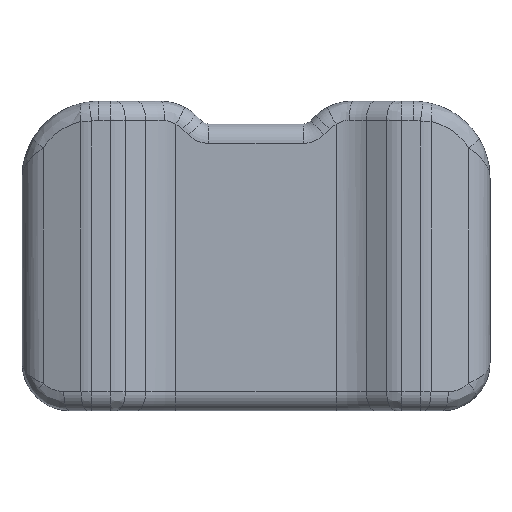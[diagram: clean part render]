
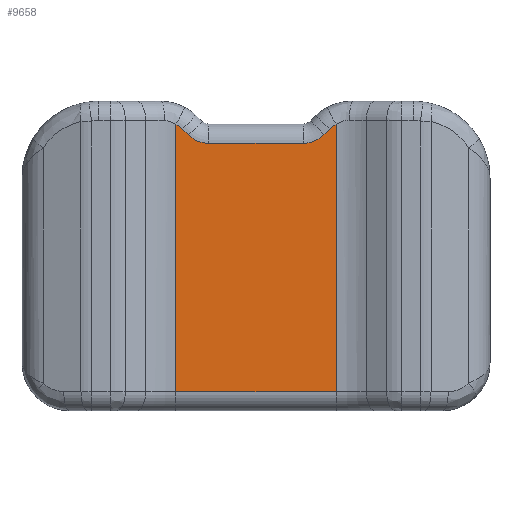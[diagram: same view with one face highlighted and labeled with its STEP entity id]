
A CAD part, front view. The second image highlights one B-rep face of the part: STEP entity #9658.
In plain terms, the highlighted planar face has unit normal (0, -1, 0).
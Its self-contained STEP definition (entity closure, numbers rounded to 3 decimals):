
#3389=CARTESIAN_POINT('',(31.068,-15.,37.834));
#3417=DIRECTION('',(1.,0.,0.));
#3418=VECTOR('',#3417,29.485);
#3419=CARTESIAN_POINT('',(-8.632,-15.,31.952));
#3420=LINE('',#3419,#3418);
#3421=CARTESIAN_POINT('',(20.853,-15.,40.877));
#3422=DIRECTION('',(0.,-1.,0.));
#3423=DIRECTION('',(0.,0.,-1.));
#3424=AXIS2_PLACEMENT_3D('',#3421,#3422,#3423);
#3426=DIRECTION('',(0.707,0.,0.707));
#3427=VECTOR('',#3426,2.318);
#3428=CARTESIAN_POINT('',(27.324,-15.,34.73));
#3429=LINE('',#3428,#3427);
#3430=CARTESIAN_POINT('',(36.072,-15.,28.397));
#3431=DIRECTION('',(0.,1.,0.));
#3432=DIRECTION('',(-0.666,0.,0.746));
#3433=AXIS2_PLACEMENT_3D('',#3430,#3431,#3432);
#3435=DIRECTION('',(0.,0.,1.));
#3436=VECTOR('',#3435,83.321);
#3437=CARTESIAN_POINT('',(31.068,-15.,-45.488));
#3438=LINE('',#3437,#3436);
#3439=DIRECTION('',(-1.,0.,0.));
#3440=VECTOR('',#3439,49.915);
#3441=CARTESIAN_POINT('',(31.068,-15.,-45.488));
#3442=LINE('',#3441,#3440);
#3443=DIRECTION('',(0.,0.,1.));
#3444=VECTOR('',#3443,83.321);
#3445=CARTESIAN_POINT('',(-18.847,-15.,-45.488));
#3446=LINE('',#3445,#3444);
#3447=CARTESIAN_POINT('',(-23.85,-15.,28.397));
#3448=DIRECTION('',(0.,-1.,0.));
#3449=DIRECTION('',(0.662,0.,0.749));
#3450=AXIS2_PLACEMENT_3D('',#3447,#3448,#3449);
#3452=DIRECTION('',(0.707,0.,-0.707));
#3453=VECTOR('',#3452,2.596);
#3454=CARTESIAN_POINT('',(-16.779,-15.,36.402));
#3455=LINE('',#3454,#3453);
#3456=CARTESIAN_POINT('',(-8.632,-15.,40.877));
#3457=DIRECTION('',(0.,-1.,0.));
#3458=DIRECTION('',(-0.707,0.,-0.707));
#3459=AXIS2_PLACEMENT_3D('',#3456,#3457,#3458);
#3492=CARTESIAN_POINT('',(-18.847,-15.,37.834));
#3665=CARTESIAN_POINT('',(31.068,-15.,-45.488));
#3666=VERTEX_POINT('',#3665);
#3672=CARTESIAN_POINT('',(-18.847,-15.,-45.488));
#3674=VERTEX_POINT('',#3672);
#3711=VERTEX_POINT('',#3389);
#3714=CARTESIAN_POINT('',(28.963,-15.,36.369));
#3715=VERTEX_POINT('',#3714);
#3716=CARTESIAN_POINT('',(27.324,-15.,34.73));
#3717=VERTEX_POINT('',#3716);
#3739=VERTEX_POINT('',#3492);
#3740=CARTESIAN_POINT('',(-16.779,-15.,36.402));
#3741=VERTEX_POINT('',#3740);
#3744=CARTESIAN_POINT('',(20.853,-15.,31.952));
#3745=VERTEX_POINT('',#3744);
#3752=CARTESIAN_POINT('',(-14.943,-15.,34.566));
#3753=CARTESIAN_POINT('',(-8.632,-15.,31.952));
#3754=VERTEX_POINT('',#3752);
#3755=VERTEX_POINT('',#3753);
#9633=CARTESIAN_POINT('',(-23.889,-15.,-51.488));
#9634=DIRECTION('',(0.,1.,0.));
#9635=DIRECTION('',(1.,0.,0.));
#9636=AXIS2_PLACEMENT_3D('',#9633,#9634,#9635);
#9637=PLANE('',#9636);
#9639=ORIENTED_EDGE('',*,*,#9638,.T.);
#9641=ORIENTED_EDGE('',*,*,#9640,.T.);
#9643=ORIENTED_EDGE('',*,*,#9642,.T.);
#9645=ORIENTED_EDGE('',*,*,#9644,.T.);
#9646=ORIENTED_EDGE('',*,*,#9584,.F.);
#9647=ORIENTED_EDGE('',*,*,#9624,.T.);
#9649=ORIENTED_EDGE('',*,*,#9648,.T.);
#9651=ORIENTED_EDGE('',*,*,#9650,.F.);
#9653=ORIENTED_EDGE('',*,*,#9652,.T.);
#9655=ORIENTED_EDGE('',*,*,#9654,.T.);
#9656=EDGE_LOOP('',(#9639,#9641,#9643,#9645,#9646,#9647,#9649,#9651,#9653,
#9655));
#9657=FACE_OUTER_BOUND('',#9656,.F.);
#9658=ADVANCED_FACE('',(#9657),#9637,.F.);
#3425=CIRCLE('',#3424,8.925);
#3434=CIRCLE('',#3433,10.681);
#3451=CIRCLE('',#3450,10.681);
#3460=CIRCLE('',#3459,8.925);
#9584=EDGE_CURVE('',#3666,#3711,#3438,.T.);
#9624=EDGE_CURVE('',#3666,#3674,#3442,.T.);
#9638=EDGE_CURVE('',#3755,#3745,#3420,.T.);
#9640=EDGE_CURVE('',#3745,#3717,#3425,.T.);
#9642=EDGE_CURVE('',#3717,#3715,#3429,.T.);
#9644=EDGE_CURVE('',#3715,#3711,#3434,.T.);
#9648=EDGE_CURVE('',#3674,#3739,#3446,.T.);
#9650=EDGE_CURVE('',#3741,#3739,#3451,.T.);
#9652=EDGE_CURVE('',#3741,#3754,#3455,.T.);
#9654=EDGE_CURVE('',#3754,#3755,#3460,.T.);
